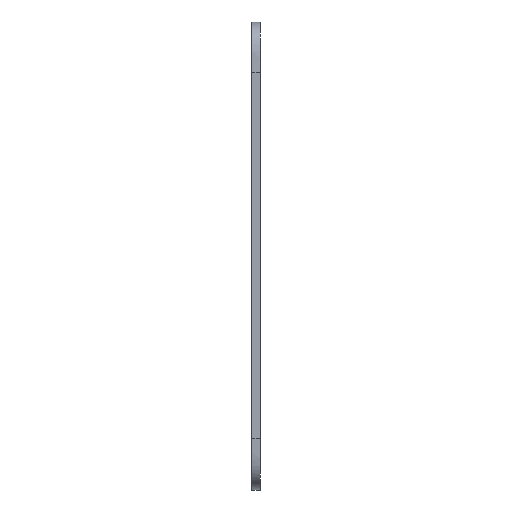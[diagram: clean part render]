
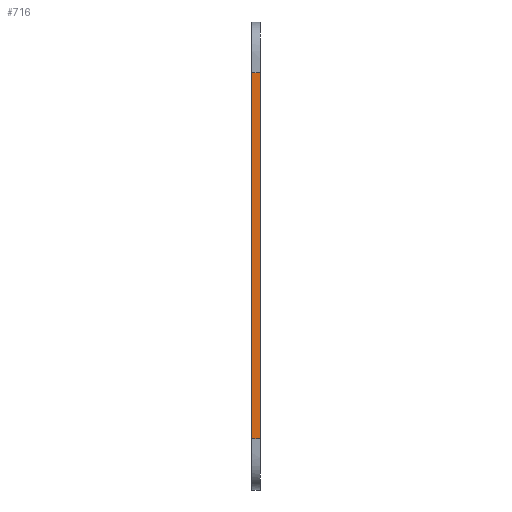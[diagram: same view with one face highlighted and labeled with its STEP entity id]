
A CAD part, top view. The second image highlights one B-rep face of the part: STEP entity #716.
In plain terms, the highlighted planar face has unit normal (0, 0, 1).
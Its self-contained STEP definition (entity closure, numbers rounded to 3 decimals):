
#137=FACE_OUTER_BOUND('',#186,.T.);
#186=EDGE_LOOP('',(#610,#611,#612,#613));
#241=LINE('',#1138,#294);
#252=LINE('',#1275,#305);
#253=LINE('',#1278,#306);
#254=LINE('',#1279,#307);
#294=VECTOR('',#932,10.);
#305=VECTOR('',#971,10.);
#306=VECTOR('',#974,10.);
#307=VECTOR('',#975,10.);
#357=VERTEX_POINT('',#1120);
#358=VERTEX_POINT('',#1137);
#374=VERTEX_POINT('',#1258);
#375=VERTEX_POINT('',#1277);
#440=EDGE_CURVE('',#357,#358,#241,.T.);
#464=EDGE_CURVE('',#357,#374,#252,.T.);
#465=EDGE_CURVE('',#375,#374,#253,.T.);
#466=EDGE_CURVE('',#358,#375,#254,.T.);
#610=ORIENTED_EDGE('',*,*,#440,.F.);
#611=ORIENTED_EDGE('',*,*,#464,.T.);
#612=ORIENTED_EDGE('',*,*,#465,.F.);
#613=ORIENTED_EDGE('',*,*,#466,.F.);
#687=PLANE('',#799);
#716=ADVANCED_FACE('',(#137),#687,.T.);
#799=AXIS2_PLACEMENT_3D('',#1276,#972,#973);
#932=DIRECTION('',(0.,-1.,0.));
#971=DIRECTION('',(-1.,0.,0.));
#972=DIRECTION('center_axis',(0.,0.,
1.));
#973=DIRECTION('ref_axis',(0.,1.,0.));
#974=DIRECTION('',(0.,1.,0.));
#975=DIRECTION('',(-1.,0.,0.));
#1120=CARTESIAN_POINT('',(-150.8,65.,34.611));
#1137=CARTESIAN_POINT('',(-150.8,-65.,34.611));
#1138=CARTESIAN_POINT('',(-150.8,65.,34.611));
#1258=CARTESIAN_POINT('',(-153.8,65.,34.611));
#1275=CARTESIAN_POINT('',(-150.8,65.,34.611));
#1276=CARTESIAN_POINT('Origin',(-150.8,-65.,34.611));
#1277=CARTESIAN_POINT('',(-153.8,-65.,34.611));
#1278=CARTESIAN_POINT('',(-153.8,65.,34.611));
#1279=CARTESIAN_POINT('',(-150.8,-65.,34.611));
